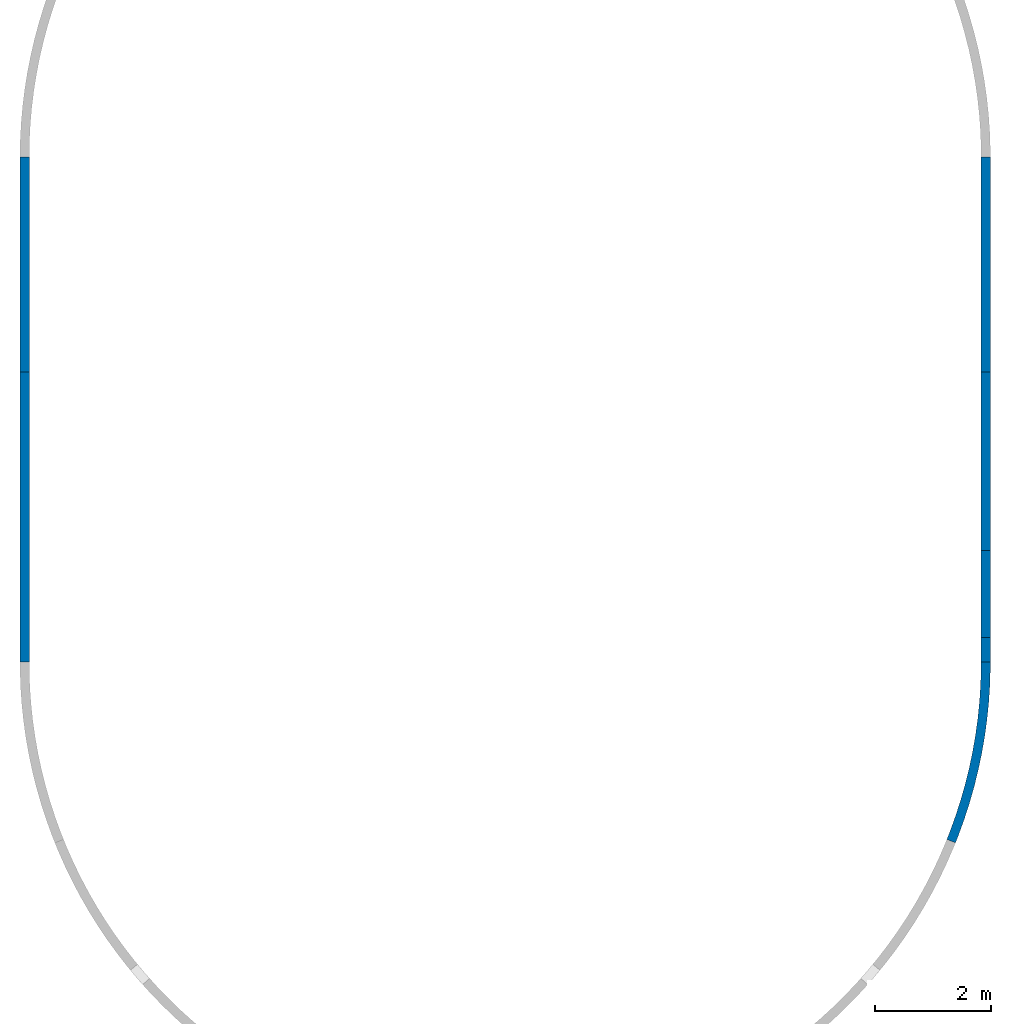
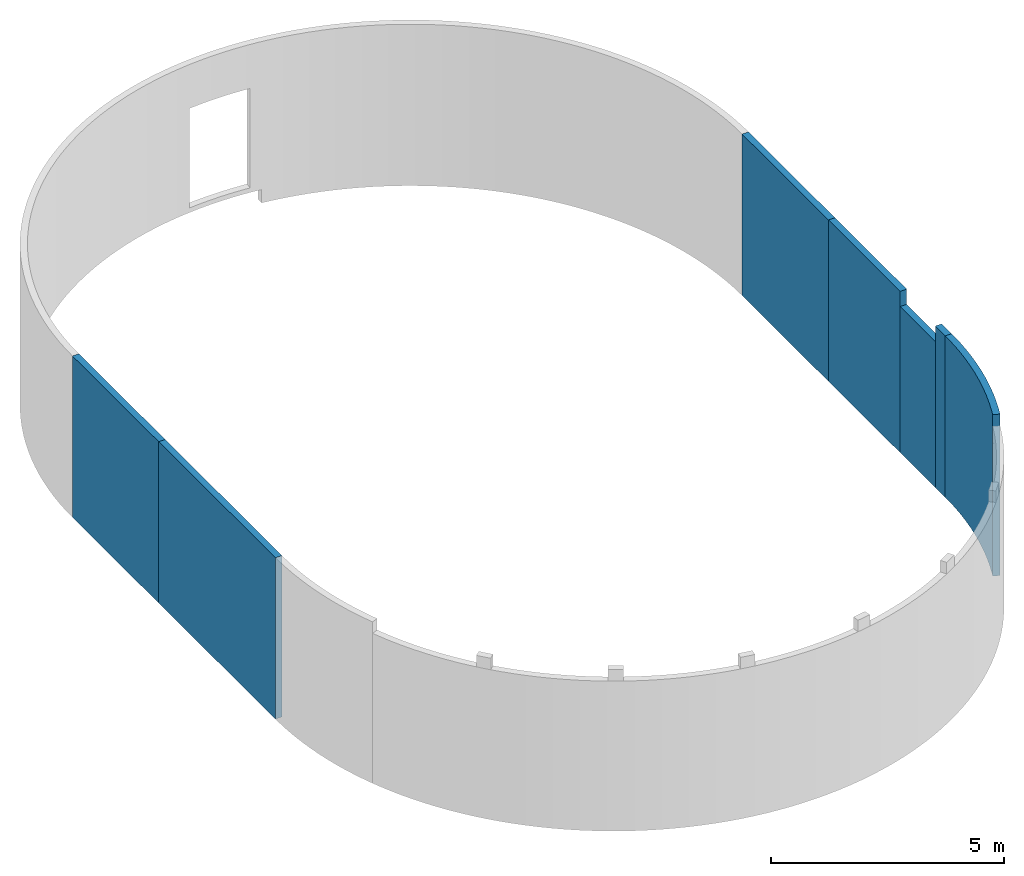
# One storey, part 2 of 3: 7 walls.
"""IFC4 building model written with IfcOpenShell, lengths in millimetres."""

import ifcopenshell
import ifcopenshell.guid

model = None  # the IFC model being written
_history = None  # IfcOwnerHistory: only IFC2X3 demands one
_inside = {}  # id of a spatial element -> (the spatial element, [elements in it])
_under = {}  # id of a project, library or spatial element -> (it, [spatial elements below it])
_declared = {}  # id of a project -> (the project, [libraries it declares])
_typed = {}  # id of a type object -> (the type object, [elements of that type])
_made_of = {}  # id of a material, layer set ... -> (it, [elements and type objects made of it])


def new_model(schema):
    """Start an empty IFC model of exactly this schema.

    Asked for "IFC4X3", IfcOpenShell would pick the latest addendum, in which some entities
    have other attributes; the version numbers below select the first issue.
    IFC2X3 requires an IfcOwnerHistory on every rooted entity: one is made here for all.
    """
    global model, _history
    if schema == "IFC4X3":
        model = ifcopenshell.file(schema_version=(4, 3, 0, 0))
    else:
        model = ifcopenshell.file(schema=schema)
    _inside.clear()
    _under.clear()
    _declared.clear()
    _typed.clear()
    _made_of.clear()
    _history = None
    if model.schema == "IFC2X3":
        org = make("IfcOrganization", Name="unknown")
        user = make(
            "IfcPersonAndOrganization",
            ThePerson=make("IfcPerson", FamilyName="unknown"),
            TheOrganization=org,
        )
        app = make(
            "IfcApplication",
            ApplicationDeveloper=org,
            Version="unknown",
            ApplicationFullName="unknown",
            ApplicationIdentifier="unknown",
        )
        _history = make(
            "IfcOwnerHistory",
            OwningUser=user,
            OwningApplication=app,
            ChangeAction="ADDED",
            CreationDate=0,
        )
    return model


def make(cls, **values):
    """One entity of the class cls with the attributes given. An attribute that is None is left unset."""
    return model.create_entity(
        cls, **{name: value for name, value in values.items() if value is not None}
    )


def entity(cls, *values):
    """Any entity or typed value of the class cls, its attributes in the order of the schema. None: left unset."""
    e = model.create_entity(cls)
    for i, value in enumerate(values):
        if value is not None:
            e[i] = value
    return e


def rooted(cls, **values):
    """An entity with a GlobalId (a new one), such as an element, a storey or a relation."""
    return make(cls, GlobalId=ifcopenshell.guid.new(), OwnerHistory=_history, **values)


def si_unit(unit_type, name, prefix=None):
    """IfcSIUnit, for example si_unit("LENGTHUNIT", "METRE", prefix="MILLI")."""
    return make("IfcSIUnit", UnitType=unit_type, Prefix=prefix, Name=name)


def converted_unit(unit_type, name, factor, base, dimensions=None, offset=None):
    """IfcConversionBasedUnit, such as the inch: factor (a typed value) times the base unit."""
    return make(
        "IfcConversionBasedUnit"
        if offset is None
        else "IfcConversionBasedUnitWithOffset",
        ConversionOffset=offset,
        Dimensions=None
        if dimensions is None
        else entity("IfcDimensionalExponents", *dimensions),
        UnitType=unit_type,
        Name=name,
        ConversionFactor=make(
            "IfcMeasureWithUnit", ValueComponent=factor, UnitComponent=base
        ),
    )


def derived_unit(unit_type, elements):
    """IfcDerivedUnit: a product of units, each with its exponent."""
    return make(
        "IfcDerivedUnit",
        Elements=[
            make("IfcDerivedUnitElement", Unit=unit, Exponent=power)
            for unit, power in elements
        ],
        UnitType=unit_type,
    )


def assignment(units):
    """IfcUnitAssignment: the units of a project."""
    return None if units is None else make("IfcUnitAssignment", Units=units)


def point(xyz):
    """IfcCartesianPoint."""
    return None if xyz is None else make("IfcCartesianPoint", Coordinates=xyz)


def direction(xyz):
    """IfcDirection."""
    return None if xyz is None else make("IfcDirection", DirectionRatios=xyz)


def frame(location, z_axis=None, x_axis=None):
    """IfcAxis2Placement3D, a coordinate frame: its origin and axes. An axis left out is left unset."""
    return make(
        "IfcAxis2Placement3D",
        Location=point(location),
        Axis=direction(z_axis),
        RefDirection=direction(x_axis),
    )


def origin_with_axes():
    """The frame at (0, 0, 0) with the z axis (0, 0, 1) and the x axis (1, 0, 0) written out."""
    return frame((0.0, 0.0, 0.0), z_axis=(0.0, 0.0, 1.0), x_axis=(1.0, 0.0, 0.0))


def place(relative_to, where):
    """IfcLocalPlacement: puts the frame where relative to a parent placement (None: the world)."""
    return make(
        "IfcLocalPlacement", PlacementRelTo=relative_to, RelativePlacement=where
    )


def context(
    kind, dimensions, precision=None, world=None, true_north=None, identifier=None
):
    """IfcGeometricRepresentationContext, for example the 3D "Model" context."""
    return make(
        "IfcGeometricRepresentationContext",
        ContextIdentifier=identifier,
        ContextType=kind,
        CoordinateSpaceDimension=dimensions,
        Precision=precision,
        WorldCoordinateSystem=world,
        TrueNorth=true_north,
    )


def subcontext(parent, identifier, kind, view, scale=None):
    """IfcGeometricRepresentationSubContext, for example "Body" below "Model"."""
    return make(
        "IfcGeometricRepresentationSubContext",
        ContextIdentifier=identifier,
        ContextType=kind,
        ParentContext=parent,
        TargetScale=scale,
        TargetView=view,
    )


def project(units=None, contexts=None):
    """IfcProject with its units and contexts."""
    return rooted(
        "IfcProject",
        Name="project",
        RepresentationContexts=contexts,
        UnitsInContext=assignment(units),
    )


def spatial(cls, under=None, at=None, **own):
    """A site, building, storey or space (cls), placed at a placement, below another one or the project."""
    s = rooted(cls, ObjectPlacement=at, **own)
    if under is not None:
        _under.setdefault(under.id(), (under, []))[1].append(s)
    return s


def point_list(points):
    """IfcCartesianPointList2D or 3D."""
    cls = (
        "IfcCartesianPointList2D" if len(points[0]) == 2 else "IfcCartesianPointList3D"
    )
    return make(cls, CoordList=points)


def polygons(points, faces, closed=None, point_numbers=None):
    """IfcPolygonalFaceSet: a face is its outer loop, then its inner loops; points numbered from 1."""
    made = []
    for loops in faces:
        if len(loops) == 1:
            made.append(make("IfcIndexedPolygonalFace", CoordIndex=loops[0]))
        else:
            made.append(
                make(
                    "IfcIndexedPolygonalFaceWithVoids",
                    CoordIndex=loops[0],
                    InnerCoordIndices=loops[1:],
                )
            )
    return make(
        "IfcPolygonalFaceSet",
        Coordinates=point_list(points),
        Closed=closed,
        Faces=made,
        PnIndex=point_numbers,
    )


def shape(context_of_items, identifier, shape_type, items):
    """IfcShapeRepresentation: the items that make up one representation, for example the "Body"."""
    return make(
        "IfcShapeRepresentation",
        ContextOfItems=context_of_items,
        RepresentationIdentifier=identifier,
        RepresentationType=shape_type,
        Items=items,
    )


def material(Name=None, Category=None):
    """IfcMaterial."""
    return make("IfcMaterial", Name=Name, Category=Category)


def constituent(of_material, Name=None, Category=None, fraction=None):
    """IfcMaterialConstituent: one of the materials an element consists of."""
    return make(
        "IfcMaterialConstituent",
        Name=Name,
        Material=of_material,
        Fraction=fraction,
        Category=Category,
    )


def constituent_set(constituents=None, Name=None):
    """IfcMaterialConstituentSet."""
    return make(
        "IfcMaterialConstituentSet", Name=Name, MaterialConstituents=constituents
    )


def made_of(thing, what):
    """Note that an element or type object is made of a material, layer set ...; save() writes the relation."""
    if what is not None:
        _made_of.setdefault(what.id(), (what, []))[1].append(thing)
    return thing


def type_object(cls, material=None, **own):
    """A type object (cls), such as IfcWallType, which elements share."""
    return made_of(rooted(cls, **own), material)


def element(
    cls,
    number,
    at=None,
    inside=None,
    cuts=None,
    type_object=None,
    material=None,
    context=None,
    identifier="Body",
    shape_type=None,
    held_by="IfcProductDefinitionShape",
    body=None,
    shapes=None,
    **own,
):
    """One element of the class cls, such as IfcWall. Its Tag is "e" and its number.

    at: its placement. inside: the storey or other place that contains it. cuts: it is an
    opening in that element (IfcRelVoidsElement). A single representation is given by context,
    identifier, shape_type and body (its items); several are given by shapes. held_by: the class
    of the entity that holds the representations. save() writes the other relations.
    """
    e = rooted(cls, Tag="e%d" % number, ObjectPlacement=at, **own)
    if body is not None:
        shapes = [shape(context, identifier, shape_type, body)]
    if shapes is not None:
        e.Representation = make(held_by, Representations=shapes)
    if inside is not None:
        _inside.setdefault(inside.id(), (inside, []))[1].append(e)
    if cuts is not None:
        rooted(
            "IfcRelVoidsElement", RelatingBuildingElement=cuts, RelatedOpeningElement=e
        )
    if type_object is not None:
        _typed.setdefault(type_object.id(), (type_object, []))[1].append(e)
    return made_of(e, material)


def aggregate(whole, parts):
    """IfcRelAggregates: a whole, such as a stair, and the parts it consists of."""
    return rooted("IfcRelAggregates", RelatingObject=whole, RelatedObjects=parts)


def save(model, path):
    """Write the relations noted so far, then the file.

    IfcRelAggregates (storeys below a building ...), IfcRelContainedInSpatialStructure (elements
    in a storey), IfcRelDefinesByType, IfcRelAssociatesMaterial and IfcRelDeclares: one each for
    every whole, place, type object, material and project.
    """
    for whole, parts in _under.values():
        aggregate(whole, parts)
    for where, things in _inside.values():
        rooted(
            "IfcRelContainedInSpatialStructure",
            RelatedElements=things,
            RelatingStructure=where,
        )
    for kind, things in _typed.values():
        rooted("IfcRelDefinesByType", RelatedObjects=things, RelatingType=kind)
    for what, things in _made_of.values():
        rooted("IfcRelAssociatesMaterial", RelatedObjects=things, RelatingMaterial=what)
    for by, libraries in _declared.values():
        rooted("IfcRelDeclares", RelatingContext=by, RelatedDefinitions=libraries)
    model.write(path)


model = new_model("IFC4")

# Units and contexts
model_context = context("Model", 3, precision=0.01, world=origin_with_axes(), true_north=direction((0.0, 1.0)))
body_context = subcontext(model_context, "Body", "Model", "MODEL_VIEW")
ifc_project = project(units=[si_unit("LENGTHUNIT", "METRE", prefix="MILLI"), si_unit("AREAUNIT", "SQUARE_METRE"), si_unit("VOLUMEUNIT", "CUBIC_METRE"), converted_unit("PLANEANGLEUNIT", "DEGREE", entity("IfcPlaneAngleMeasure", 0.0174532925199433), si_unit("PLANEANGLEUNIT", "RADIAN"), dimensions=[0, 0, 0, 0, 0, 0, 0]), converted_unit("TIMEUNIT", "Year", entity("IfcTimeMeasure", 31557600.0), si_unit("TIMEUNIT", "SECOND"), dimensions=[0, 0, 1, 0, 0, 0, 0]), si_unit("MASSUNIT", "GRAM", prefix="KILO"), si_unit("THERMODYNAMICTEMPERATUREUNIT", "DEGREE_CELSIUS"), si_unit("LUMINOUSINTENSITYUNIT", "LUMEN"), si_unit("ENERGYUNIT", "JOULE", prefix="MEGA"), derived_unit("THERMALCONDUCTANCEUNIT", [(si_unit("POWERUNIT", "WATT"), 1), (si_unit("LENGTHUNIT", "METRE"), -1), (si_unit("THERMODYNAMICTEMPERATUREUNIT", "KELVIN"), -1)]), derived_unit("SPECIFICHEATCAPACITYUNIT", [(si_unit("ENERGYUNIT", "JOULE"), 1), (si_unit("MASSUNIT", "GRAM", prefix="KILO"), -1), (si_unit("THERMODYNAMICTEMPERATUREUNIT", "KELVIN"), -1)]), derived_unit("MASSDENSITYUNIT", [(si_unit("MASSUNIT", "GRAM", prefix="KILO"), 1), (si_unit("VOLUMEUNIT", "CUBIC_METRE"), -1)])], contexts=[model_context])

# Site, building, storey
site_placement = place(None, origin_with_axes())
site = spatial("IfcSite", under=ifc_project, at=site_placement, Name="Exteriér", CompositionType="ELEMENT")
building_placement = place(site_placement, origin_with_axes())
building = spatial("IfcBuilding", under=site, at=building_placement, Name="Univerzitní lezecké centrum", CompositionType="ELEMENT")
storey_placement = place(building_placement, frame((0.0, 0.0, -3350.0), z_axis=(0.0, 0.0, 1.0), x_axis=(1.0, 0.0, 0.0)))
storey = spatial("IfcBuildingStorey", under=building, at=storey_placement, Name="1.PP", CompositionType="ELEMENT", Elevation=-3350.0)

# Walls
ifc_material = material(Name="Tepelná izolace - XPS - obvodová izolace")
ifc_constituent_1 = constituent(ifc_material, Name="Tepelná izolace - XPS - obvodová izolace")
ifc_constituent_set_1 = constituent_set(constituents=[ifc_constituent_1], Name="Obvodová tepelná izolace podzemní")
wall_type = type_object("IfcWallType", Name="Obvodová tepelná izolace podzemní 160", PredefinedType="NOTDEFINED")
wall_1_placement = place(storey_placement, frame((10649.85164885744, 4699.999999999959, -570.0000000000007), z_axis=(0.0, 0.0, 1.0), x_axis=(0.0, -1.0, 0.0)))
element("IfcWall", 1, at=wall_1_placement, inside=storey, type_object=wall_type, material=ifc_constituent_set_1, Name="St02", PredefinedType="NOTDEFINED", context=body_context, shape_type="Tessellation", body=[
    polygons([(3075.000000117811, 0.0, 4220.000000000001), (3075.000000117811, 159.9999999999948, 4220.000000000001), (0.0, 160.0000000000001, 4220.000000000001), (0.0, 0.0, 4220.000000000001), (3075.000000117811, 0.0, 0.0), (3075.000000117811, 159.9999999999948, 0.0), (0.0, 160.0000000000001, 0.0), (0.0, 0.0, 0.0)], [[[1, 2, 3, 4]], [[1, 5, 6, 2]], [[2, 6, 7, 3]], [[4, 3, 7, 8]], [[5, 1, 4, 8]], [[6, 5, 8, 7]]], closed=True),
])
ifc_constituent_2 = constituent(ifc_material, Name="Tepelná izolace - XPS - obvodová izolace")
ifc_constituent_set_2 = constituent_set(constituents=[ifc_constituent_2], Name="Obvodová tepelná izolace podzemní")
wall_2_placement = place(storey_placement, frame((-5750.14835114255, 4700.000000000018, -570.0000000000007), z_axis=(0.0, 0.0, 1.0), x_axis=(0.0, -1.0, 0.0)))
element("IfcWall", 2, at=wall_2_placement, inside=storey, type_object=wall_type, material=ifc_constituent_set_2, Name="St02", PredefinedType="NOTDEFINED", context=body_context, shape_type="Tessellation", body=[
    polygons([(4999.999999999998, 0.0, 0.0), (4999.999999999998, -160.0000000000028, 0.0), (0.0, -160.0000000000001, 0.0), (0.0, 0.0, 0.0), (4999.999999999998, 0.0, 4220.000000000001), (4999.999999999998, -160.0000000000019, 4220.000000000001), (0.0, -160.0000000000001, 4220.000000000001), (0.0, 0.0, 4220.000000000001)], [[[1, 2, 3, 4]], [[1, 5, 6, 2]], [[2, 6, 7, 3]], [[4, 3, 7, 8]], [[5, 1, 4, 8]], [[6, 5, 8, 7]]], closed=True),
])
ifc_constituent_3 = constituent(ifc_material, Name="Tepelná izolace - XPS - obvodová izolace")
ifc_constituent_set_3 = constituent_set(constituents=[ifc_constituent_3], Name="Obvodová tepelná izolace podzemní")
wall_3_placement = place(storey_placement, frame((-5750.148351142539, 8400.00000000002, -570.0000000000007), z_axis=(0.0, 0.0, 1.0), x_axis=(0.0, -1.0, 0.0)))
element("IfcWall", 3, at=wall_3_placement, inside=storey, type_object=wall_type, material=ifc_constituent_set_3, Name="St02", PredefinedType="NOTDEFINED", context=body_context, shape_type="Tessellation", body=[
    polygons([(3700.000000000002, 0.0, 0.0), (3700.000000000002, -160.0000000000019, 0.0), (0.0, -160.0000000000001, 0.0), (0.0, 0.0, 0.0), (3700.000000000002, 0.0, 4220.000000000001), (3700.000000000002, -160.0000000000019, 4220.000000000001), (0.0, -160.0000000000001, 4220.000000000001), (0.0, 0.0, 4220.000000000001)], [[[1, 2, 3, 4]], [[1, 5, 6, 2]], [[2, 6, 7, 3]], [[4, 3, 7, 8]], [[5, 1, 4, 8]], [[6, 5, 8, 7]]], closed=True),
])
ifc_constituent_4 = constituent(ifc_material, Name="Tepelná izolace - XPS - obvodová izolace")
ifc_constituent_set_4 = constituent_set(constituents=[ifc_constituent_4], Name="Obvodová tepelná izolace podzemní")
wall_4_placement = place(storey_placement, frame((10649.85164885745, 8399.999999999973, -570.0000000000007), z_axis=(0.0, 0.0, 1.0), x_axis=(0.0, -1.0, 0.0)))
element("IfcWall", 4, at=wall_4_placement, inside=storey, type_object=wall_type, material=ifc_constituent_set_4, Name="St02", PredefinedType="NOTDEFINED", context=body_context, shape_type="Tessellation", body=[
    polygons([(3700.000000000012, 0.0, 4220.000000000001), (3700.000000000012, 159.9999999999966, 4220.000000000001), (0.0, 160.0000000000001, 4220.000000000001), (0.0, 0.0, 4220.000000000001), (3700.000000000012, 0.0, 0.0), (3700.000000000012, 159.9999999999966, 0.0), (0.0, 160.0000000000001, 0.0), (0.0, 0.0, 0.0)], [[[1, 2, 3, 4]], [[1, 5, 6, 2]], [[2, 6, 7, 3]], [[4, 3, 7, 8]], [[5, 1, 4, 8]], [[6, 5, 8, 7]]], closed=True),
])
ifc_constituent_5 = constituent(ifc_material, Name="Tepelná izolace - XPS - obvodová izolace")
ifc_constituent_set_5 = constituent_set(constituents=[ifc_constituent_5], Name="Obvodová tepelná izolace podzemní")
wall_5_placement = place(storey_placement, frame((10649.85164885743, 124.9999998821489, -570.0000000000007), z_axis=(0.0, 0.0, 1.0), x_axis=(0.0, -1.0, 0.0)))
element("IfcWall", 5, at=wall_5_placement, inside=storey, type_object=wall_type, material=ifc_constituent_set_5, Name="St02", PredefinedType="NOTDEFINED", context=body_context, shape_type="Tessellation", body=[
    polygons([(424.9999998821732, 0.0, 4220.000000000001), (424.9999998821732, 160.0000000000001, 4220.000000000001), (0.0, 160.0000000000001, 4220.000000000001), (0.0, 0.0, 4220.000000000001), (424.9999998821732, 0.0, 0.0), (424.9999998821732, 160.0000000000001, 0.0), (0.0, 160.0000000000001, 0.0), (0.0, 0.0, 0.0)], [[[1, 2, 3, 4]], [[1, 5, 6, 2]], [[2, 6, 7, 3]], [[4, 3, 7, 8]], [[5, 1, 4, 8]], [[6, 5, 8, 7]]], closed=True),
])
ifc_constituent_6 = constituent(ifc_material, Name="Tepelná izolace - XPS - obvodová izolace")
ifc_constituent_set_6 = constituent_set(constituents=[ifc_constituent_6], Name="Obvodová tepelná izolace podzemní")
wall_6_placement = place(storey_placement, frame((10649.85164885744, 1624.999999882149, -570.0000000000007), z_axis=(0.0, 0.0, 1.0), x_axis=(0.0, -1.0, 0.0)))
element("IfcWall", 6, at=wall_6_placement, inside=storey, type_object=wall_type, material=ifc_constituent_set_6, Name="St02", PredefinedType="NOTDEFINED", context=body_context, shape_type="Tessellation", body=[
    polygons([(1500.0, 0.0, 3819.980001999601), (1500.0, 159.9999999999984, 3819.980001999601), (0.0, 160.0000000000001, 3819.980001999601), (0.0, 0.0, 3819.980001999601), (1500.0, 0.0, 0.0), (1500.0, 159.9999999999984, 0.0), (0.0, 160.0000000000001, 0.0), (0.0, 0.0, 0.0)], [[[1, 2, 3, 4]], [[1, 5, 6, 2]], [[2, 6, 7, 3]], [[4, 3, 7, 8]], [[5, 1, 4, 8]], [[6, 5, 8, 7]]], closed=True),
])
ifc_constituent_7 = constituent(ifc_material, Name="Tepelná izolace - XPS - obvodová izolace")
ifc_constituent_set_7 = constituent_set(constituents=[ifc_constituent_7], Name="Obvodová tepelná izolace podzemní")
wall_7_placement = place(storey_placement, frame((10059.21747245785, -3355.740787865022, -570.0000000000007), z_axis=(0.0, 0.0, 1.0), x_axis=(0.3726513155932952, 0.92797144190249, 0.0)))
element("IfcWall", 7, at=wall_7_placement, inside=storey, type_object=wall_type, material=ifc_constituent_set_7, Name="St02", PredefinedType="NOTDEFINED", context=body_context, shape_type="Tessellation", body=[
    polygons([(146.7397295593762, -160.0000000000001, 0.0), (146.7397295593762, -160.0000000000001, 4220.000000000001), (0.0, -159.9999999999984, 4220.000000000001), (0.0, -159.9999999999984, 0.0), (440.0384060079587, -149.700518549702, 0.0), (440.0384060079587, -149.700518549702, 4220.000000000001), (143.931313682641, 0.0, 4220.000000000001), (0.0, 0.0, 4220.000000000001), (0.0, 0.0, 0.0), (143.931313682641, 0.0, 0.0), (732.794957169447, -129.1142445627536, 0.0), (732.794957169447, -129.1142445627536, 4220.000000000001), (431.6166183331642, 10.10236218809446, 4220.000000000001), (431.6166183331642, 10.10236218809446, 0.0), (1024.648708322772, -98.26654023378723, 0.0), (1024.648708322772, -98.26654023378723, 4220.000000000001), (718.7701733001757, 30.29464050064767, 4220.000000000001), (718.7701733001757, 30.29464050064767, 0.0), (1315.240096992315, -57.19540979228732, 0.0), (1315.240096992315, -57.19540979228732, 4220.000000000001), (1005.038206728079, 60.55195814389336, 4220.000000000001), (1005.038206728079, 60.55195814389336, 0.0), (1604.211115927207, -5.951452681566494, 0.0), (1604.211115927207, -5.951452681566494, 4220.000000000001), (1290.068037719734, 100.8370382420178, 4220.000000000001), (1290.068037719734, 100.8370382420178, 0.0), (1891.205754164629, 55.40219877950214, 0.0), (1891.205754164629, 55.40219877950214, 4220.000000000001), (1573.508510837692, 151.1002497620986, 4220.000000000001), (1573.508510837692, 151.1002497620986, 0.0), (2175.870435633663, 126.7899571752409, 0.0), (2175.870435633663, 126.7899571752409, 4220.000000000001), (1855.010428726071, 211.279668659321, 4220.000000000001), (1855.010428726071, 211.279668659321, 0.0), (2457.854454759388, 208.1238731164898, 0.0), (2457.854454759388, 208.1238731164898, 4220.000000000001), (2134.226982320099, 281.3011541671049, 4220.000000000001), (2134.226982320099, 281.3011541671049, 0.0), (2736.810408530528, 299.3037435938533, 0.0), (2736.810408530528, 299.3037435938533, 4220.000000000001), (2410.814178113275, 361.0784401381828, 4220.000000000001), (2410.814178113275, 361.0784401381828, 0.0), (3012.394624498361, 400.2172354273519, 0.0), (3012.394624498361, 400.2172354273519, 4220.000000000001), (2684.43126195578, 450.5132413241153, 4220.000000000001), (2684.43126195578, 450.5132413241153, 0.0), (3115.36499835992, 442.1587456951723, 0.0), (3115.36499835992, 442.1587456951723, 4220.000000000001), (2954.741138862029, 549.4953744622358, 4220.000000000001), (2954.741138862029, 549.4953744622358, 0.0), (3055.740787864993, 590.634176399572, 0.0), (3055.740787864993, 590.634176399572, 4220.000000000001)], [[[1, 2, 3, 4]], [[5, 6, 2, 1]], [[2, 7, 8, 3]], [[4, 3, 8, 9]], [[10, 1, 4, 9]], [[11, 12, 6, 5]], [[6, 13, 7, 2]], [[14, 5, 1, 10]], [[7, 10, 9, 8]], [[15, 16, 12, 11]], [[12, 17, 13, 6]], [[18, 11, 5, 14]], [[13, 14, 10, 7]], [[19, 20, 16, 15]], [[16, 21, 17, 12]], [[22, 15, 11, 18]], [[17, 18, 14, 13]], [[23, 24, 20, 19]], [[20, 25, 21, 16]], [[26, 19, 15, 22]], [[21, 22, 18, 17]], [[27, 28, 24, 23]], [[24, 29, 25, 20]], [[30, 23, 19, 26]], [[25, 26, 22, 21]], [[31, 32, 28, 27]], [[28, 33, 29, 24]], [[34, 27, 23, 30]], [[29, 30, 26, 25]], [[35, 36, 32, 31]], [[32, 37, 33, 28]], [[38, 31, 27, 34]], [[33, 34, 30, 29]], [[39, 40, 36, 35]], [[36, 41, 37, 32]], [[42, 35, 31, 38]], [[37, 38, 34, 33]], [[43, 44, 40, 39]], [[40, 45, 41, 36]], [[46, 39, 35, 42]], [[41, 42, 38, 37]], [[47, 48, 44, 43]], [[44, 49, 45, 40]], [[50, 43, 39, 46]], [[45, 46, 42, 41]], [[47, 51, 52, 48]], [[48, 52, 49, 44]], [[51, 47, 43, 50]], [[49, 50, 46, 45]], [[52, 51, 50, 49]]], closed=True),
])

save(model, "model.ifc")
